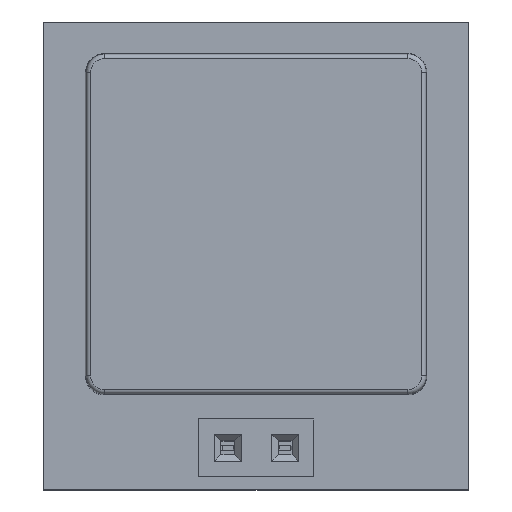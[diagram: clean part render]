
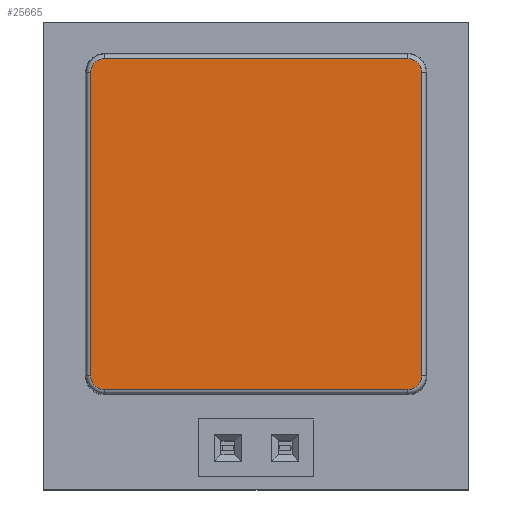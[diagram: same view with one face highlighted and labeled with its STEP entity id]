
A CAD part, top view. The second image highlights one B-rep face of the part: STEP entity #25665.
In plain terms, the highlighted planar face has unit normal (0, 0, 1).
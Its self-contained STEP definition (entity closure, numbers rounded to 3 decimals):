
#25665 = ADVANCED_FACE('',(#25666),#25736,.F.);
#25666 = FACE_BOUND('',#25667,.T.);
#25667 = EDGE_LOOP('',(#25668,#25678,#25687,#25695,#25704,#25712,#25721,
    #25729));
#25668 = ORIENTED_EDGE('',*,*,#25669,.T.);
#25669 = EDGE_CURVE('',#25670,#25672,#25674,.T.);
#25670 = VERTEX_POINT('',#25671);
#25671 = CARTESIAN_POINT('',(-1.944,-1.037,
    14.269));
#25672 = VERTEX_POINT('',#25673);
#25673 = CARTESIAN_POINT('',(11.456,-1.037,
    14.269));
#25674 = LINE('',#25675,#25676);
#25675 = CARTESIAN_POINT('',(12.256,-1.037,
    14.269));
#25676 = VECTOR('',#25677,1.);
#25677 = DIRECTION('',(1.,0.,0.));
#25678 = ORIENTED_EDGE('',*,*,#25679,.T.);
#25679 = EDGE_CURVE('',#25672,#25680,#25682,.T.);
#25680 = VERTEX_POINT('',#25681);
#25681 = CARTESIAN_POINT('',(12.06,-0.433,
    14.269));
#25682 = CIRCLE('',#25683,0.603);
#25683 = AXIS2_PLACEMENT_3D('',#25684,#25685,#25686);
#25684 = CARTESIAN_POINT('',(11.456,-0.433,
    14.269));
#25685 = DIRECTION('',(0.,0.,1.));
#25686 = DIRECTION('',(0.,1.,0.));
#25687 = ORIENTED_EDGE('',*,*,#25688,.T.);
#25688 = EDGE_CURVE('',#25680,#25689,#25691,.T.);
#25689 = VERTEX_POINT('',#25690);
#25690 = CARTESIAN_POINT('',(12.06,12.967,
    14.269));
#25691 = LINE('',#25692,#25693);
#25692 = CARTESIAN_POINT('',(12.06,-1.233,
    14.269));
#25693 = VECTOR('',#25694,1.);
#25694 = DIRECTION('',(0.,1.,0.));
#25695 = ORIENTED_EDGE('',*,*,#25696,.T.);
#25696 = EDGE_CURVE('',#25689,#25697,#25699,.T.);
#25697 = VERTEX_POINT('',#25698);
#25698 = CARTESIAN_POINT('',(11.456,13.57,
    14.269));
#25699 = CIRCLE('',#25700,0.603);
#25700 = AXIS2_PLACEMENT_3D('',#25701,#25702,#25703);
#25701 = CARTESIAN_POINT('',(11.456,12.967,
    14.269));
#25702 = DIRECTION('',(0.,0.,1.));
#25703 = DIRECTION('',(0.,1.,0.));
#25704 = ORIENTED_EDGE('',*,*,#25705,.T.);
#25705 = EDGE_CURVE('',#25697,#25706,#25708,.T.);
#25706 = VERTEX_POINT('',#25707);
#25707 = CARTESIAN_POINT('',(-1.944,13.57,
    14.269));
#25708 = LINE('',#25709,#25710);
#25709 = CARTESIAN_POINT('',(-1.944,13.57,
    14.269));
#25710 = VECTOR('',#25711,1.);
#25711 = DIRECTION('',(-1.,0.,0.));
#25712 = ORIENTED_EDGE('',*,*,#25713,.T.);
#25713 = EDGE_CURVE('',#25706,#25714,#25716,.T.);
#25714 = VERTEX_POINT('',#25715);
#25715 = CARTESIAN_POINT('',(-2.547,12.967,
    14.269));
#25716 = CIRCLE('',#25717,0.603);
#25717 = AXIS2_PLACEMENT_3D('',#25718,#25719,#25720);
#25718 = CARTESIAN_POINT('',(-1.944,12.967,
    14.269));
#25719 = DIRECTION('',(0.,0.,1.));
#25720 = DIRECTION('',(0.,1.,0.));
#25721 = ORIENTED_EDGE('',*,*,#25722,.T.);
#25722 = EDGE_CURVE('',#25714,#25723,#25725,.T.);
#25723 = VERTEX_POINT('',#25724);
#25724 = CARTESIAN_POINT('',(-2.547,-0.433,
    14.269));
#25725 = LINE('',#25726,#25727);
#25726 = CARTESIAN_POINT('',(-2.547,-1.233,
    14.269));
#25727 = VECTOR('',#25728,1.);
#25728 = DIRECTION('',(0.,-1.,0.));
#25729 = ORIENTED_EDGE('',*,*,#25730,.T.);
#25730 = EDGE_CURVE('',#25723,#25670,#25731,.T.);
#25731 = CIRCLE('',#25732,0.603);
#25732 = AXIS2_PLACEMENT_3D('',#25733,#25734,#25735);
#25733 = CARTESIAN_POINT('',(-1.944,-0.433,
    14.269));
#25734 = DIRECTION('',(0.,0.,1.));
#25735 = DIRECTION('',(0.,1.,0.));
#25736 = PLANE('',#25737);
#25737 = AXIS2_PLACEMENT_3D('',#25738,#25739,#25740);
#25738 = CARTESIAN_POINT('',(12.256,-1.233,
    14.269));
#25739 = DIRECTION('',(0.,0.,-1.));
#25740 = DIRECTION('',(0.,1.,0.));
